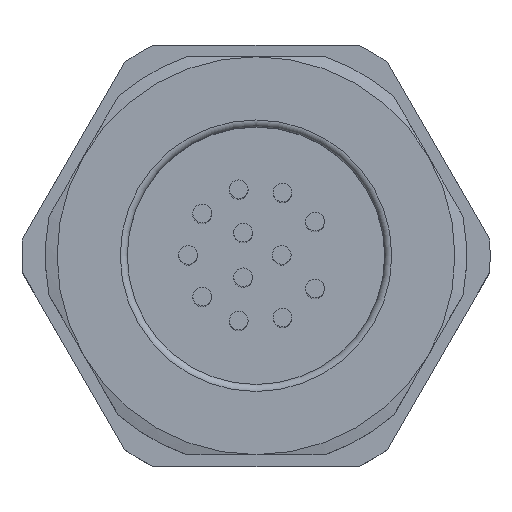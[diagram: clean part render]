
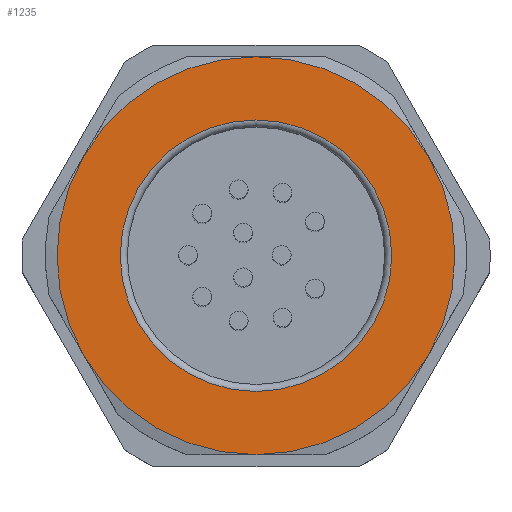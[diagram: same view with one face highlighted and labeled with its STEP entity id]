
A CAD part, top view. The second image highlights one B-rep face of the part: STEP entity #1235.
In plain terms, the highlighted planar face has unit normal (0, 0, 1).
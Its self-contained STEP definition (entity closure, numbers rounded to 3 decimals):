
#280=PLANE('',#8283);
#468=FACE_BOUND('',#2287,.T.);
#469=FACE_BOUND('',#2288,.T.);
#1235=ADVANCED_FACE('',(#468,#469),#280,.T.);
#2287=EDGE_LOOP('',(#3384));
#2288=EDGE_LOOP('',(#3385,#3386,#3387,#3388,#3389,#3390));
#2929=CIRCLE('',#8276,5.8);
#2930=CIRCLE('',#8277,8.5);
#2931=CIRCLE('',#8278,8.5);
#2932=CIRCLE('',#8279,8.5);
#2933=CIRCLE('',#8280,8.5);
#2934=CIRCLE('',#8281,8.5);
#2935=CIRCLE('',#8282,8.5);
#3384=ORIENTED_EDGE('',*,*,#6338,.T.);
#3385=ORIENTED_EDGE('',*,*,#6339,.T.);
#3386=ORIENTED_EDGE('',*,*,#6340,.T.);
#3387=ORIENTED_EDGE('',*,*,#6341,.T.);
#3388=ORIENTED_EDGE('',*,*,#6342,.T.);
#3389=ORIENTED_EDGE('',*,*,#6343,.T.);
#3390=ORIENTED_EDGE('',*,*,#6344,.T.);
#5534=VERTEX_POINT('',#12595);
#5535=VERTEX_POINT('',#12597);
#5536=VERTEX_POINT('',#12598);
#5537=VERTEX_POINT('',#12600);
#5538=VERTEX_POINT('',#12602);
#5539=VERTEX_POINT('',#12604);
#5540=VERTEX_POINT('',#12606);
#6338=EDGE_CURVE('',#5534,#5534,#2929,.T.);
#6339=EDGE_CURVE('',#5535,#5536,#2930,.T.);
#6340=EDGE_CURVE('',#5536,#5537,#2931,.T.);
#6341=EDGE_CURVE('',#5537,#5538,#2932,.T.);
#6342=EDGE_CURVE('',#5538,#5539,#2933,.T.);
#6343=EDGE_CURVE('',#5539,#5540,#2934,.T.);
#6344=EDGE_CURVE('',#5540,#5535,#2935,.T.);
#8276=AXIS2_PLACEMENT_3D('',#12594,#9113,#9114);
#8277=AXIS2_PLACEMENT_3D('',#12596,#9115,#9116);
#8278=AXIS2_PLACEMENT_3D('',#12599,#9117,#9118);
#8279=AXIS2_PLACEMENT_3D('',#12601,#9119,#9120);
#8280=AXIS2_PLACEMENT_3D('',#12603,#9121,#9122);
#8281=AXIS2_PLACEMENT_3D('',#12605,#9123,#9124);
#8282=AXIS2_PLACEMENT_3D('',#12607,#9125,#9126);
#8283=AXIS2_PLACEMENT_3D('',#12608,#9127,#9128);
#9113=DIRECTION('',(0.,0.,-1.));
#9114=DIRECTION('',(1.,0.,0.));
#9115=DIRECTION('',(0.,0.,1.));
#9116=DIRECTION('',(1.,0.,0.));
#9117=DIRECTION('',(0.,0.,1.));
#9118=DIRECTION('',(1.,0.,0.));
#9119=DIRECTION('',(0.,0.,1.));
#9120=DIRECTION('',(1.,0.,0.));
#9121=DIRECTION('',(0.,0.,1.));
#9122=DIRECTION('',(1.,0.,0.));
#9123=DIRECTION('',(0.,0.,1.));
#9124=DIRECTION('',(1.,0.,0.));
#9125=DIRECTION('',(0.,0.,1.));
#9126=DIRECTION('',(1.,0.,0.));
#9127=DIRECTION('',(0.,0.,1.));
#9128=DIRECTION('',(1.,0.,0.));
#12594=CARTESIAN_POINT('',(0.,0.,19.5));
#12595=CARTESIAN_POINT('',(5.8,0.,19.5));
#12596=CARTESIAN_POINT('',(0.,0.,19.5));
#12597=CARTESIAN_POINT('',(0.,8.5,19.5));
#12598=CARTESIAN_POINT('',(-7.361,4.25,19.5));
#12599=CARTESIAN_POINT('',(0.,0.,19.5));
#12600=CARTESIAN_POINT('',(-7.361,-4.25,19.5));
#12601=CARTESIAN_POINT('',(0.,0.,19.5));
#12602=CARTESIAN_POINT('',(0.,-8.5,19.5));
#12603=CARTESIAN_POINT('',(0.,0.,19.5));
#12604=CARTESIAN_POINT('',(7.361,-4.25,19.5));
#12605=CARTESIAN_POINT('',(0.,0.,19.5));
#12606=CARTESIAN_POINT('',(7.361,4.25,19.5));
#12607=CARTESIAN_POINT('',(0.,0.,19.5));
#12608=CARTESIAN_POINT('',(0.,0.,19.5));
